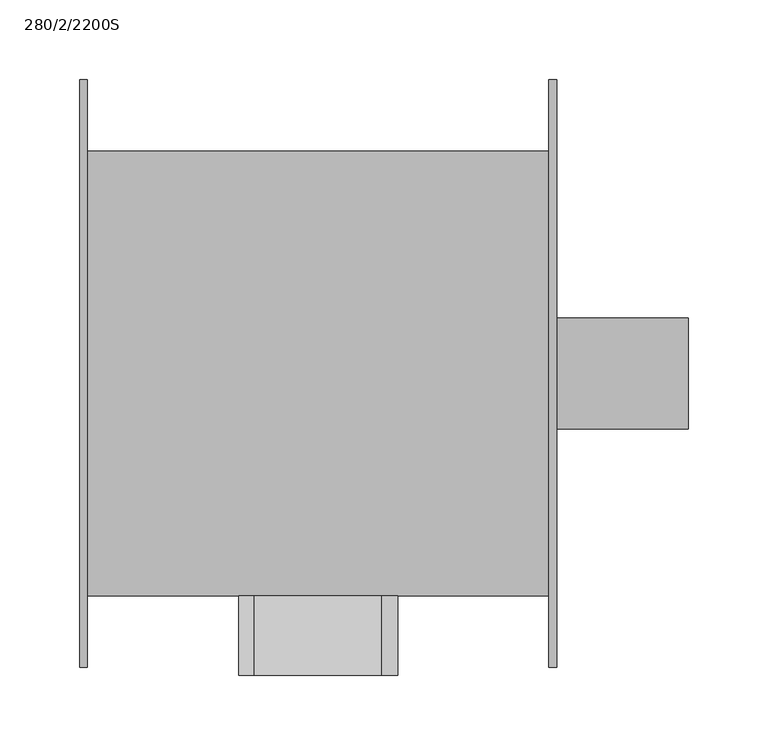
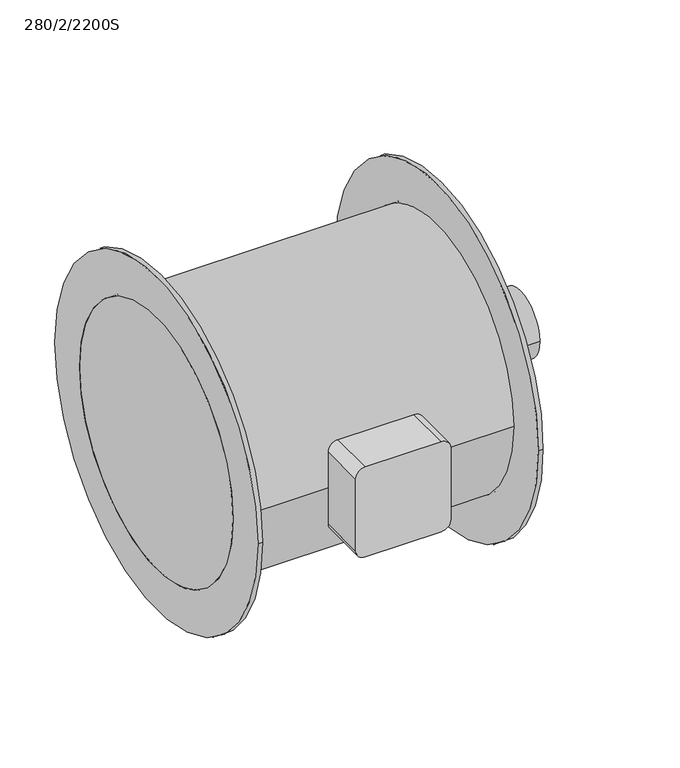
"""IFC4 building model written with IfcOpenShell, lengths in millimetres: unitary equipment geometry, VE-Wentylator-ParaForma-Harmann-AXER-Nawiewny : 280/2/2200S."""

from ifc_helpers import new_model, si_unit, point, frame, frame_2d, origin, origin_2d, place, context, project, spatial, polyline, circle_curve, trimmed, segment, composite_curve, outline, extrude, source, transform, mapped, element, save


def unitary_equipment_280_2_2200s_1ad16082(model_context):
    return source(origin(), model_context, "Body", "SweptSolid", [
        extrude(outline(composite_curve([segment(trimmed(circle_curve(origin_2d(), 35.0), [point((-35.0, 0.0))], [point((35.0, 0.0))], False, "CARTESIAN"), True, "CONTINUOUS"), segment(trimmed(circle_curve(origin_2d(), 35.0), [point((35.0, 0.0))], [point((-35.0, 0.0))], False, "CARTESIAN"), True, "CONTINUOUS")], self_intersect=False)), frame((150.0, 0.0, 0.0), z_axis=(1.0, 0.0, 0.0), x_axis=(0.0, 1.0, 0.0)), (0.0, 0.0, 1.0), 83.0),
        extrude(outline(composite_curve([segment(trimmed(circle_curve(frame_2d((-40.0, 40.0)), 10.0), [point((-50.0, 40.0))], [point((-40.0, 50.0))], False, "CARTESIAN"), True, "CONTINUOUS"), segment(polyline([(-40.0, 50.0), (40.0, 50.0)]), True, "CONTINUOUS"), segment(trimmed(circle_curve(frame_2d((40.0, 40.0)), 10.0), [point((40.0, 50.0))], [point((50.0, 40.0))], False, "CARTESIAN"), True, "CONTINUOUS"), segment(polyline([(50.0, 40.0), (50.0, -40.0)]), True, "CONTINUOUS"), segment(trimmed(circle_curve(frame_2d((40.0, -40.0)), 10.0), [point((50.0, -40.0))], [point((40.0, -50.0))], False, "CARTESIAN"), True, "CONTINUOUS"), segment(polyline([(40.0, -50.0), (-40.0, -50.0)]), True, "CONTINUOUS"), segment(trimmed(circle_curve(frame_2d((-40.0, -40.0)), 10.0), [point((-40.0, -50.0))], [point((-50.0, -40.0))], False, "CARTESIAN"), True, "CONTINUOUS"), segment(polyline([(-50.0, -40.0), (-50.0, 40.0)]), True, "CONTINUOUS")], self_intersect=False)), frame((0.0, -190.0, 0.0), z_axis=(0.0, 1.0, 0.0), x_axis=(0.0, 0.0, 1.0)), (0.0, 0.0, 1.0), 50.0),
        extrude(outline(composite_curve([segment(trimmed(circle_curve(origin_2d(), 185.0), [point((-185.0, 0.0))], [point((185.0, 0.0))], False, "CARTESIAN"), True, "CONTINUOUS"), segment(trimmed(circle_curve(origin_2d(), 185.0), [point((185.0, 0.0))], [point((-185.0, 0.0))], False, "CARTESIAN"), True, "CONTINUOUS")], self_intersect=False), holes=[composite_curve([segment(trimmed(circle_curve(origin_2d(), 140.0), [point((-140.0, 0.0))], [point((140.0, 0.0))], True, "CARTESIAN"), True, "CONTINUOUS"), segment(trimmed(circle_curve(origin_2d(), 140.0), [point((140.0, 0.0))], [point((-140.0, 0.0))], True, "CARTESIAN"), True, "CONTINUOUS")], self_intersect=False)]), frame((145.0, 0.0, 0.0), z_axis=(1.0, 0.0, 0.0), x_axis=(0.0, 1.0, 0.0)), (0.0, 0.0, 1.0), 5.0),
        extrude(outline(composite_curve([segment(trimmed(circle_curve(origin_2d(), 185.0), [point((-185.0, 0.0))], [point((185.0, 0.0))], False, "CARTESIAN"), True, "CONTINUOUS"), segment(trimmed(circle_curve(origin_2d(), 185.0), [point((185.0, 0.0))], [point((-185.0, 0.0))], False, "CARTESIAN"), True, "CONTINUOUS")], self_intersect=False), holes=[composite_curve([segment(trimmed(circle_curve(origin_2d(), 140.0), [point((-140.0, 0.0))], [point((140.0, 0.0))], True, "CARTESIAN"), True, "CONTINUOUS"), segment(trimmed(circle_curve(origin_2d(), 140.0), [point((140.0, 0.0))], [point((-140.0, 0.0))], True, "CARTESIAN"), True, "CONTINUOUS")], self_intersect=False)]), frame((-150.0, 0.0, 0.0), z_axis=(1.0, 0.0, 0.0), x_axis=(0.0, 1.0, 0.0)), (0.0, 0.0, 1.0), 5.0),
        extrude(outline(composite_curve([segment(trimmed(circle_curve(origin_2d(), 140.0), [point((-140.0, 0.0))], [point((140.0, 0.0))], False, "CARTESIAN"), True, "CONTINUOUS"), segment(trimmed(circle_curve(origin_2d(), 140.0), [point((140.0, 0.0))], [point((-140.0, 0.0))], False, "CARTESIAN"), True, "CONTINUOUS")], self_intersect=False)), frame((-150.0, 0.0, 0.0), z_axis=(1.0, 0.0, 0.0), x_axis=(0.0, 1.0, 0.0)), (0.0, 0.0, 1.0), 300.0),
    ])


if __name__ == "__main__":
    model = new_model("IFC4")
    model_context = context("Model", 3, world=origin())
    ifc_project = project(units=[si_unit("LENGTHUNIT", "METRE", prefix="MILLI")], contexts=[model_context])
    site = spatial("IfcSite", under=ifc_project)
    building = spatial("IfcBuilding", under=site)
    placement = place(None, origin())
    unitary_equipment_280_2_2200s_shape = unitary_equipment_280_2_2200s_1ad16082(model_context)
    element("IfcUnitaryEquipment", 1, ObjectType="VE-Wentylator-ParaForma-Harmann-AXER-Nawiewny : 280/2/2200S", at=placement, inside=building, context=model_context, shape_type="MappedRepresentation", body=[
        mapped(unitary_equipment_280_2_2200s_shape, transform((0.0, 0.0, 0.0), x_axis=(1.0, 0.0, 0.0), y_axis=(0.0, 1.0, 0.0), z_axis=(0.0, 0.0, 1.0))),
    ])
    save(model, "model.ifc")
